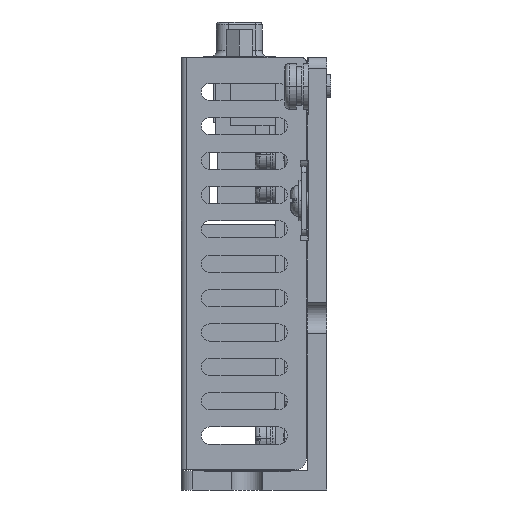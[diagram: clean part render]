
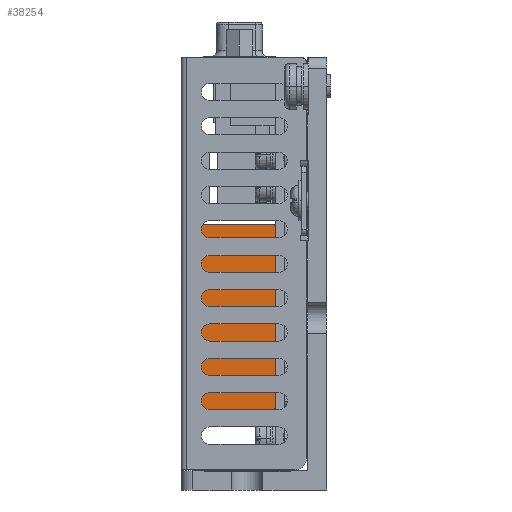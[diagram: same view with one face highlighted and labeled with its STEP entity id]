
A CAD part, left-side view. The second image highlights one B-rep face of the part: STEP entity #38254.
In plain terms, the highlighted planar face has unit normal (-1, 0, 0) as drawn and (0, 0, -1) by its records, which use the part's own axes.
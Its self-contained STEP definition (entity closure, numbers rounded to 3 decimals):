
#34199=CARTESIAN_POINT('',(15.875,12.85,-15.75));
#34200=DIRECTION('',(0.,0.,-1.));
#34201=DIRECTION('',(0.,1.,0.));
#34202=AXIS2_PLACEMENT_3D('',#34199,#34200,#34201);
#34207=DIRECTION('',(-1.,0.,0.));
#34208=VECTOR('',#34207,31.75);
#34209=CARTESIAN_POINT('',(15.875,13.1,-15.75));
#34210=LINE('',#34209,#34208);
#34214=CARTESIAN_POINT('',(-15.875,12.85,-15.75));
#34215=DIRECTION('',(0.,0.,-1.));
#34216=DIRECTION('',(-1.,0.,0.));
#34217=AXIS2_PLACEMENT_3D('',#34214,#34215,#34216);
#34222=DIRECTION('',(0.,-1.,0.));
#34223=VECTOR('',#34222,12.6);
#34224=CARTESIAN_POINT('',(-16.125,12.85,-15.75));
#34225=LINE('',#34224,#34223);
#34229=CARTESIAN_POINT('',(-15.875,0.25,-15.75));
#34230=DIRECTION('',(0.,0.,-1.));
#34231=DIRECTION('',(0.,-1.,0.));
#34232=AXIS2_PLACEMENT_3D('',#34229,#34230,#34231);
#34237=DIRECTION('',(1.,0.,0.));
#34238=VECTOR('',#34237,31.75);
#34239=CARTESIAN_POINT('',(-15.875,0.,-15.75));
#34240=LINE('',#34239,#34238);
#34244=CARTESIAN_POINT('',(15.875,0.25,-15.75));
#34245=DIRECTION('',(0.,0.,-1.));
#34246=DIRECTION('',(1.,0.,0.));
#34247=AXIS2_PLACEMENT_3D('',#34244,#34245,#34246);
#34252=DIRECTION('',(0.,1.,0.));
#34253=VECTOR('',#34252,12.6);
#34254=CARTESIAN_POINT('',(16.125,0.25,-15.75));
#34255=LINE('',#34254,#34253);
#35957=CARTESIAN_POINT('',(15.875,13.1,-15.75));
#35958=CARTESIAN_POINT('',(16.125,12.85,-15.75));
#35959=VERTEX_POINT('',#35957);
#35960=VERTEX_POINT('',#35958);
#35973=CARTESIAN_POINT('',(16.125,0.25,-15.75));
#35974=CARTESIAN_POINT('',(15.875,0.,-15.75));
#35975=VERTEX_POINT('',#35973);
#35976=VERTEX_POINT('',#35974);
#35981=CARTESIAN_POINT('',(-16.125,12.85,-15.75));
#35982=CARTESIAN_POINT('',(-15.875,13.1,-15.75));
#35983=VERTEX_POINT('',#35981);
#35984=VERTEX_POINT('',#35982);
#35997=CARTESIAN_POINT('',(-15.875,0.,-15.75));
#35998=CARTESIAN_POINT('',(-16.125,0.25,-15.75));
#35999=VERTEX_POINT('',#35997);
#36000=VERTEX_POINT('',#35998);
#38232=CARTESIAN_POINT('',(0.,0.,-15.75));
#38233=DIRECTION('',(0.,0.,1.));
#38234=DIRECTION('',(1.,0.,0.));
#38235=AXIS2_PLACEMENT_3D('',#38232,#38233,#38234);
#38236=PLANE('',#38235);
#38237=ORIENTED_EDGE('',*,*,#38222,.F.);
#38239=ORIENTED_EDGE('',*,*,#38238,.T.);
#38241=ORIENTED_EDGE('',*,*,#38240,.F.);
#38243=ORIENTED_EDGE('',*,*,#38242,.T.);
#38245=ORIENTED_EDGE('',*,*,#38244,.F.);
#38247=ORIENTED_EDGE('',*,*,#38246,.T.);
#38249=ORIENTED_EDGE('',*,*,#38248,.F.);
#38251=ORIENTED_EDGE('',*,*,#38250,.T.);
#38252=EDGE_LOOP('',(#38237,#38239,#38241,#38243,#38245,#38247,#38249,#38251));
#38253=FACE_OUTER_BOUND('',#38252,.F.);
#38254=ADVANCED_FACE('',(#38253),#38236,.F.);
#34203=CIRCLE('',#34202,0.25);
#34218=CIRCLE('',#34217,0.25);
#34233=CIRCLE('',#34232,0.25);
#34248=CIRCLE('',#34247,0.25);
#38222=EDGE_CURVE('',#35959,#35960,#34203,.T.);
#38238=EDGE_CURVE('',#35959,#35984,#34210,.T.);
#38240=EDGE_CURVE('',#35983,#35984,#34218,.T.);
#38242=EDGE_CURVE('',#35983,#36000,#34225,.T.);
#38244=EDGE_CURVE('',#35999,#36000,#34233,.T.);
#38246=EDGE_CURVE('',#35999,#35976,#34240,.T.);
#38248=EDGE_CURVE('',#35975,#35976,#34248,.T.);
#38250=EDGE_CURVE('',#35975,#35960,#34255,.T.);
